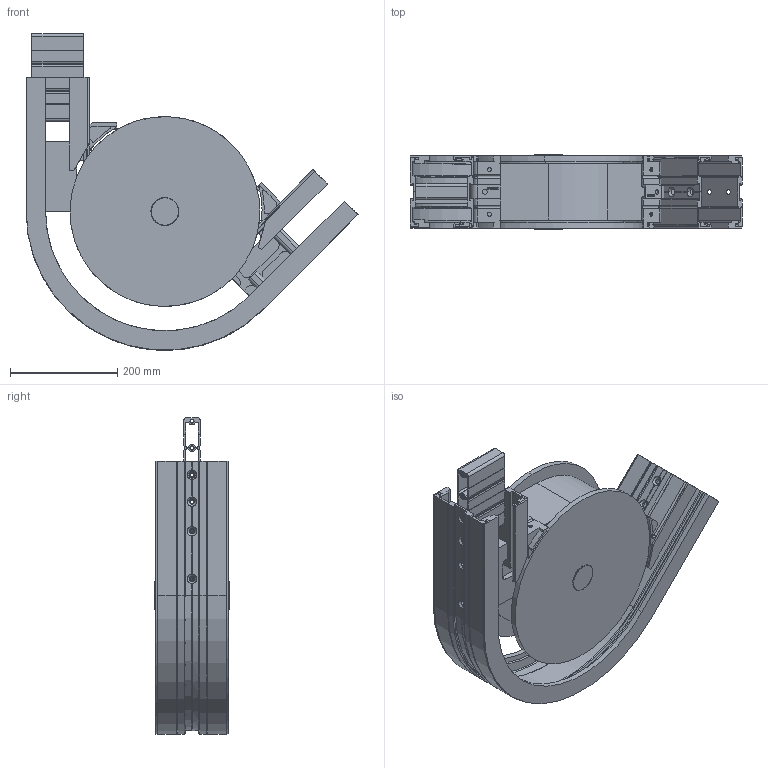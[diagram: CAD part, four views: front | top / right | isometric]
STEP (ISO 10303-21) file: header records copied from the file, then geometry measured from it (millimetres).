
FILE_DESCRIPTION (( 'STEP AP214' ), '1' );
FILE_NAME ('R3C200-135.STEP', '2011-03-17T13:53:14', ( '.' ), ( '' ), 'SwSTEP 2.0', 'SolidWorks 2010', '' );
FILE_SCHEMA (( 'AUTOMOTIVE_DESIGN' ));
Length unit declared in the file: millimetre
Products named in the file (1): R3C200-135
Bounding box: 618.92 x 139 x 590.71 mm (x, y, z)
Surface area: 1414849.2 mm2 (no closed solid volume)
Topology: 0 solids, 147 shells, 875 faces, 3484 edges, 2652 vertices
Faces by surface type: plane 473, cylinder 297, torus 62, cone 33, bspline 10
Entity records: 49534 total; most frequent: CARTESIAN_POINT 11914, DIRECTION 5676, ORIENTED_EDGE 5073, EDGE_CURVE 3484, VERTEX_POINT 2652, VECTOR 1974, LINE 1974, AXIS2_PLACEMENT_3D 1851
